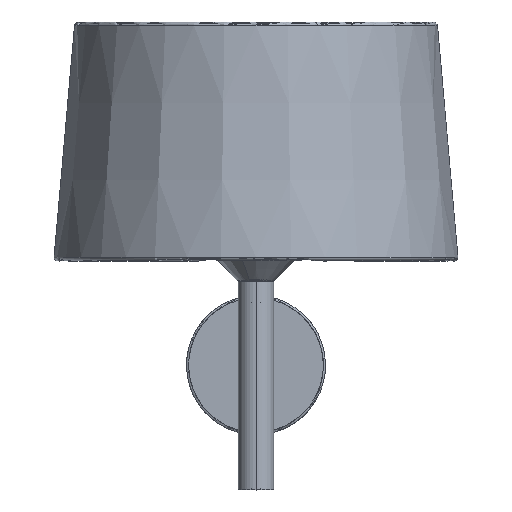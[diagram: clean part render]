
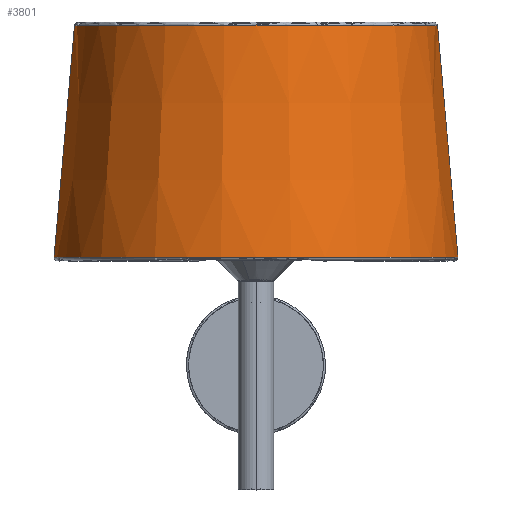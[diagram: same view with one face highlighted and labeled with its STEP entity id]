
A CAD part, top view. The second image highlights one B-rep face of the part: STEP entity #3801.
In plain terms, the highlighted conical face has half-angle 5.058 degrees and reference radius 143.815 mm.
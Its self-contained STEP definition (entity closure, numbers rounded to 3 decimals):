
#65=CONICAL_SURFACE('',#4210,143.815,0.088);
#316=CIRCLE('',#4207,130.539);
#318=CIRCLE('',#4211,145.29);
#829=FACE_OUTER_BOUND('',#1105,.T.);
#1105=EDGE_LOOP('',(#3334,#3335,#3336,#3337));
#1338=LINE('',#9118,#1544);
#1339=LINE('',#9121,#1545);
#1544=VECTOR('',#5151,304.8);
#1545=VECTOR('',#5154,304.8);
#1834=VERTEX_POINT('',#8821);
#1835=VERTEX_POINT('',#8967);
#1836=VERTEX_POINT('',#9117);
#1837=VERTEX_POINT('',#9119);
#2337=EDGE_CURVE('',#1834,#1835,#316,.T.);
#2338=EDGE_CURVE('',#1836,#1834,#1338,.T.);
#2340=EDGE_CURVE('',#1835,#1837,#1339,.T.);
#2341=EDGE_CURVE('',#1836,#1837,#318,.T.);
#3334=ORIENTED_EDGE('',*,*,#2337,.T.);
#3335=ORIENTED_EDGE('',*,*,#2340,.T.);
#3336=ORIENTED_EDGE('',*,*,#2341,.F.);
#3337=ORIENTED_EDGE('',*,*,#2338,.T.);
#3801=ADVANCED_FACE('',(#829),#65,.T.);
#4207=AXIS2_PLACEMENT_3D('',#9115,#5147,#5148);
#4210=AXIS2_PLACEMENT_3D('',#9122,#5155,#5156);
#4211=AXIS2_PLACEMENT_3D('',#9123,#5157,#5158);
#5147=DIRECTION('center_axis',(0.,0.,
-1.));
#5148=DIRECTION('ref_axis',(0.809,0.588,0.));
#5151=DIRECTION('',(0.088,0.,0.996));
#5154=DIRECTION('',(0.088,0.,-0.996));
#5155=DIRECTION('center_axis',(0.,0.,
-1.));
#5156=DIRECTION('ref_axis',(0.809,0.588,0.));
#5157=DIRECTION('center_axis',(0.,0.,
-1.));
#5158=DIRECTION('ref_axis',(0.809,0.588,0.));
#8821=CARTESIAN_POINT('',(-130.539,0.,168.242));
#8967=CARTESIAN_POINT('',(130.539,0.,168.242));
#9115=CARTESIAN_POINT('Origin',(0.,0.,
168.242));
#9117=CARTESIAN_POINT('',(-145.29,0.,1.579));
#9118=CARTESIAN_POINT('',(-145.29,0.,1.579));
#9119=CARTESIAN_POINT('',(145.29,0.,1.579));
#9121=CARTESIAN_POINT('',(130.539,0.,168.242));
#9122=CARTESIAN_POINT('Origin',(0.,0.,
18.245));
#9123=CARTESIAN_POINT('Origin',(0.,0.,
1.579));
